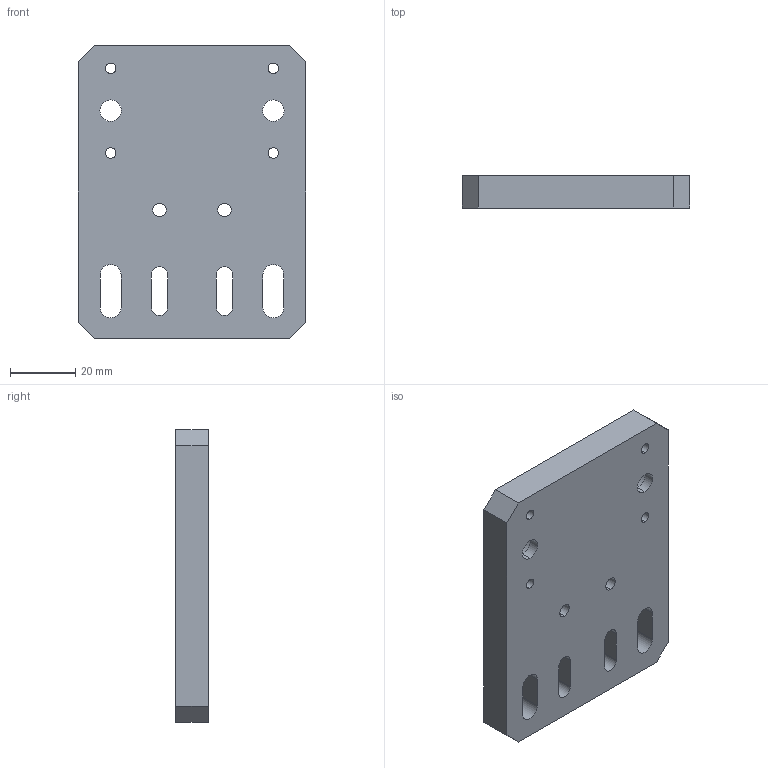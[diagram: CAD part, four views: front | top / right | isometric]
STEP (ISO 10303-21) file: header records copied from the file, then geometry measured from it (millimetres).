
FILE_DESCRIPTION (( 'STEP AP214' ), '1' );
FILE_NAME ('GZ21.19_V1导向从动轮调节板.STEP', '2021-02-27T15:20:27', ( 'hp' ), ( '' ), 'SwSTEP 2.0', 'SolidWorks 2017', '' );
FILE_SCHEMA (( 'AUTOMOTIVE_DESIGN' ));
Length unit declared in the file: millimetre
Products named in the file (1): GZ21.19_V1导向从动轮调节板
Bounding box: 70 x 10 x 90 mm (x, y, z)
Volume: 57073.8 mm3; surface area: 17449.2 mm2
Topology: 1 solids, 1 shells, 52 faces, 144 edges, 96 vertices
Faces by surface type: cylinder 32, plane 20
Entity records: 1906 total; most frequent: DIRECTION 314, CARTESIAN_POINT 293, ORIENTED_EDGE 288, EDGE_CURVE 144, AXIS2_PLACEMENT_3D 117, VERTEX_POINT 96, LINE 80, VECTOR 80
